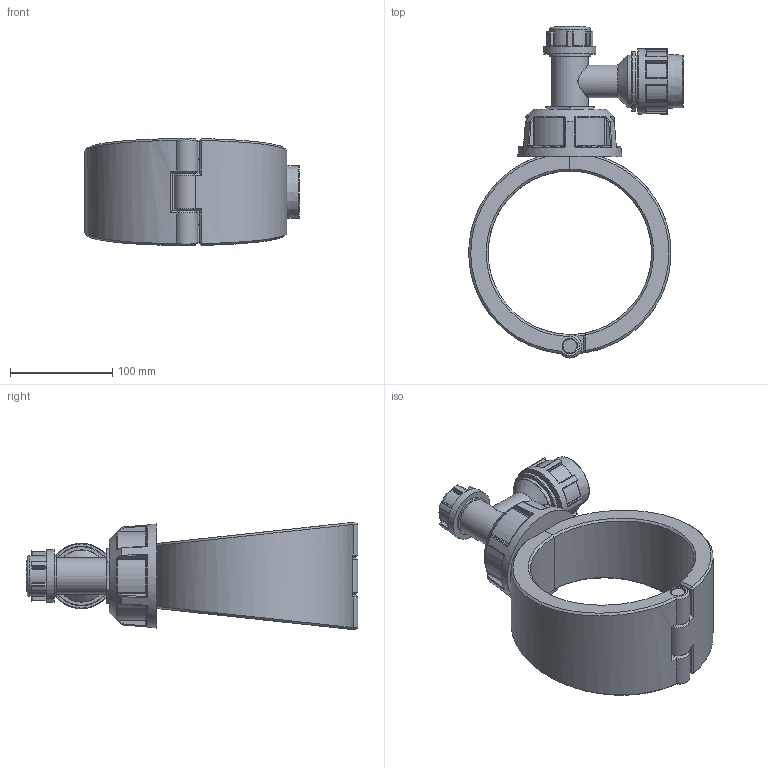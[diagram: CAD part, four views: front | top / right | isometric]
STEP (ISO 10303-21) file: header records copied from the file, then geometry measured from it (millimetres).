
FILE_DESCRIPTION(/* description */ ('Plassadle Tapper 160x32'),/* implementation_level */ '2;1');
FILE_NAME(/* name */ 'C:\Users\comp2\Dropbox\99-16-3568-Processing\Mechanical Fittings\16310\stp\163100180032_1631061800320A.stp',/* time_stamp */ '2022-02-03T11:58:52+00:00',/* author */ ('comp2'),/* organization */ (''),/* preprocessor_version */ 'ST-DEVELOPER v17.2',/* originating_system */ 'Autodesk Inventor 2019',/* authorisation */ '');
FILE_SCHEMA (('AUTOMOTIVE_DESIGN { 1 0 10303 214 3 1 1 }'));
Length unit declared in the file: millimetre
Products named in the file (1): 163100180032_1631061800320A
Bounding box: 209.98 x 324.99 x 105.57 mm (x, y, z)
Volume: 1433260.4 mm3; surface area: 190550.8 mm2
Topology: 4 solids, 4 shells, 519 faces, 1253 edges, 754 vertices
Faces by surface type: cylinder 184, plane 109, bspline 87, torus 83, sphere 40, cone 16
Full cylindrical faces by diameter (mm): 13.36 x1, 15.36 x3, 30.6 x1, 32 x2, 35.7 x1, 39.7 x2, 51 x1, 51.2 x2, 58.414 x1, 64 x1
Entity records: 18797 total; most frequent: CARTESIAN_POINT 7044, ORIENTED_EDGE 2508, DIRECTION 2426, EDGE_CURVE 1254, AXIS2_PLACEMENT_3D 1028, VERTEX_POINT 755, CIRCLE 563, EDGE_LOOP 537
